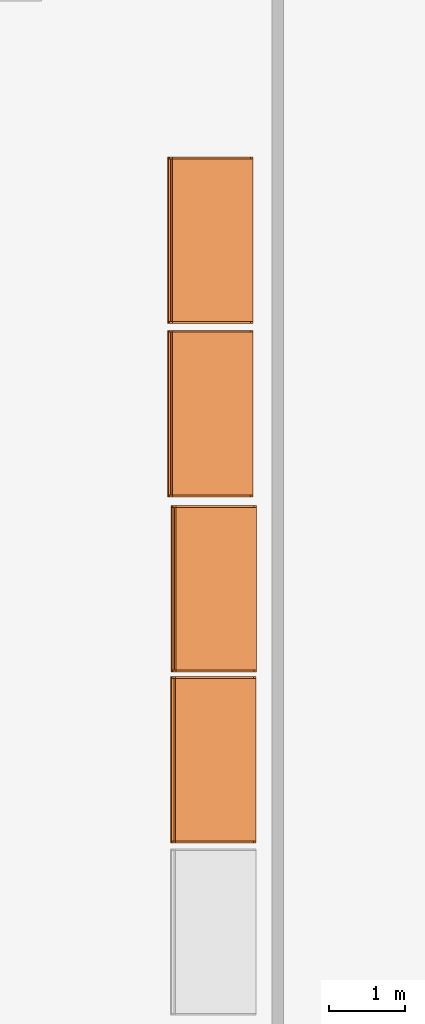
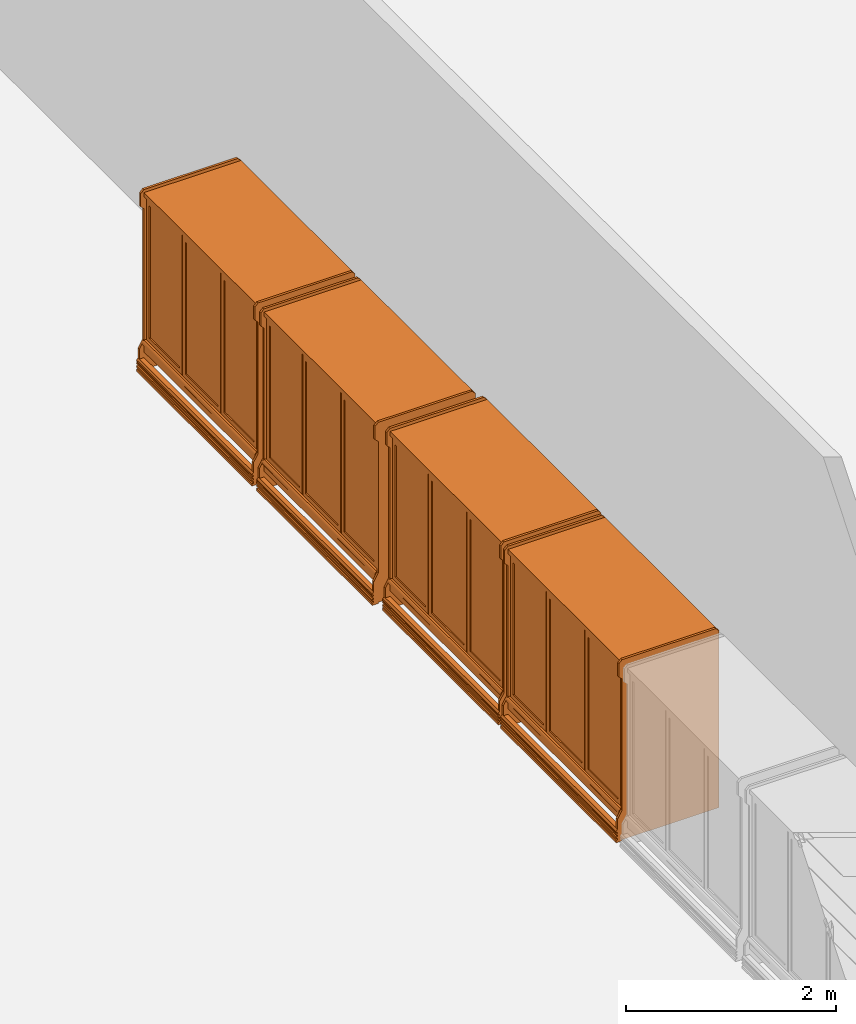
# One storey, part 10 of 11: 4 proxies.
"""IFC2X3 building model written with IfcOpenShell, lengths in metres."""

from ifc_helpers import new_model, entity, si_unit, converted_unit, derived_unit, direction, frame, frame_2d, origin, origin_2d_with_axis, place, context, subcontext, project, spatial, polyline, circle_curve, parameter, trimmed, segment, composite_curve, rectangle, outline, extrude, source, transform, mapped, material, material_list, type_object, type_shapes, element, save


model = new_model("IFC2X3")

# Units and contexts
model_context = context("Model", 3, precision=1e-05, world=origin(), true_north=direction((6.12303176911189e-17, 1.0)))
body_context = subcontext(model_context, "Body", "Model", "MODEL_VIEW")
ifc_project = project(units=[si_unit("LENGTHUNIT", "METRE"), si_unit("AREAUNIT", "SQUARE_METRE"), si_unit("VOLUMEUNIT", "CUBIC_METRE"), converted_unit("PLANEANGLEUNIT", "DEGREE", entity("IfcRatioMeasure", 0.0174532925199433), si_unit("PLANEANGLEUNIT", "RADIAN"), dimensions=[0, 0, 0, 0, 0, 0, 0]), si_unit("MASSUNIT", "GRAM", prefix="KILO"), derived_unit("MASSDENSITYUNIT", [(si_unit("MASSUNIT", "GRAM", prefix="KILO"), 1), (si_unit("LENGTHUNIT", "METRE"), -3)]), si_unit("TIMEUNIT", "SECOND"), si_unit("FREQUENCYUNIT", "HERTZ"), si_unit("THERMODYNAMICTEMPERATUREUNIT", "DEGREE_CELSIUS"), derived_unit("THERMALTRANSMITTANCEUNIT", [(si_unit("MASSUNIT", "GRAM", prefix="KILO"), 1), (si_unit("THERMODYNAMICTEMPERATUREUNIT", "KELVIN"), -1), (si_unit("TIMEUNIT", "SECOND"), -3)]), derived_unit("VOLUMETRICFLOWRATEUNIT", [(si_unit("LENGTHUNIT", "METRE"), 3), (si_unit("TIMEUNIT", "SECOND"), -1)]), si_unit("ELECTRICCURRENTUNIT", "AMPERE"), si_unit("ELECTRICVOLTAGEUNIT", "VOLT"), si_unit("POWERUNIT", "WATT"), si_unit("FORCEUNIT", "NEWTON", prefix="KILO"), si_unit("ILLUMINANCEUNIT", "LUX"), si_unit("LUMINOUSFLUXUNIT", "LUMEN"), si_unit("LUMINOUSINTENSITYUNIT", "CANDELA"), derived_unit("USERDEFINED", [(si_unit("MASSUNIT", "GRAM", prefix="KILO"), -1), (si_unit("LENGTHUNIT", "METRE"), -2), (si_unit("TIMEUNIT", "SECOND"), 3), (si_unit("LUMINOUSFLUXUNIT", "LUMEN"), 1)]), derived_unit("LINEARVELOCITYUNIT", [(si_unit("LENGTHUNIT", "METRE"), 1), (si_unit("TIMEUNIT", "SECOND"), -1)]), si_unit("PRESSUREUNIT", "PASCAL"), derived_unit("USERDEFINED", [(si_unit("LENGTHUNIT", "METRE"), -2), (si_unit("MASSUNIT", "GRAM", prefix="KILO"), 1), (si_unit("TIMEUNIT", "SECOND"), -2)])], contexts=[model_context])

# Site, building, storey
site_placement = place(None, origin())
site = spatial("IfcSite", under=ifc_project, at=site_placement, Name="Default", CompositionType="ELEMENT")
building_placement = place(site_placement, origin())
building = spatial("IfcBuilding", under=site, at=building_placement, CompositionType="ELEMENT")
storey_placement = place(building_placement, frame((0.0, 0.0, 1.49233632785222)))
storey = spatial("IfcBuildingStorey", under=building, at=storey_placement, Name="Niveau 0", CompositionType="ELEMENT", Elevation=1.49233632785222)

# Proxies
ifc_material_1 = material(Name="Métal - Chrome")
ifc_material_2 = material(Name="Verre")
ifc_material_3 = material(Name="Peinture - Blanc")
ifc_material_4 = material(Name="Plastique - Gris foncé")
ifc_material_list_1 = material_list([ifc_material_1, ifc_material_2, ifc_material_3, ifc_material_4])
ifc_material_list_2 = material_list([ifc_material_1, ifc_material_2, ifc_material_3, ifc_material_4])
building_element_proxy_type = type_object("IfcBuildingElementProxyType", Name="2200mm", PredefinedType="NOTDEFINED", material=ifc_material_list_2)
shared_shape = source(origin(), body_context, "Body", "SweptSolid", [
    extrude(outline(polyline([(-0.902820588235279, -0.198746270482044), (-0.902820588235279, -0.211446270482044), (0.824379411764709, -0.211446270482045), (0.824379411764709, -0.198746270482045), (0.608479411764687, -0.198746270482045), (0.608479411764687, -0.0923601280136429), (0.589429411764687, -0.0733101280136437), (0.589429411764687, 0.300798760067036), (0.570379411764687, 0.309681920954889), (0.570379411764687, -0.198746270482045), (0.316379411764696, -0.198746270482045), (0.316379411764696, -0.0876283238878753), (0.297329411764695, -0.0685783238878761), (0.297329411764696, 0.300798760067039), (0.278279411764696, 0.309681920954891), (0.278279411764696, -0.198746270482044), (0.0242794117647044, -0.198746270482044), (0.0242794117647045, -0.0828965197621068), (0.00522941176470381, -0.0638465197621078), (0.00522941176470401, 0.389270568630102), (-0.013820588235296, 0.398153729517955), (-0.0138205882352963, -0.198746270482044), (-0.267820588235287, -0.198746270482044), (-0.267820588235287, -0.0876283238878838), (-0.286870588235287, -0.0685783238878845), (-0.286870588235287, 0.389270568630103), (-0.305920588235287, 0.398153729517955), (-0.305920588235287, -0.198746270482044), (-0.559920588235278, -0.198746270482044), (-0.559920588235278, -0.0828965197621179), (-0.578970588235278, -0.0638465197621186), (-0.578970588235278, 0.385453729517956), (-0.598020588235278, 0.398153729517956), (-0.598020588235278, -0.198746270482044), (-0.902820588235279, -0.198746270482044)])), frame((-1.29363958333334, 0.702953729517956, 1.12917941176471), z_axis=(-1.0, 0.0, 0.0), x_axis=(0.0, 0.0, -1.0)), (0.0, 0.0, -1.0), 0.0126999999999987),
    extrude(rectangle(XDim=0.00634999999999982, YDim=0.574583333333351, at=frame_2d((-2.16840434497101e-18, 1.38777878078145e-16), x_axis=(1.0, 0.0))), frame((-0.942847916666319, 0.0285749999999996, 0.419100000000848), z_axis=(0.0, 0.0, 1.0), x_axis=(0.0, 1.0, 0.0)), (0.0, 0.0, 1.0), 1.53669999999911),
    extrude(outline(polyline([(-0.338091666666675, -0.819149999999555), (0.338091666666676, -0.819149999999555), (0.338091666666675, 0.819149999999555), (-0.338091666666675, 0.819149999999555), (-0.338091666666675, -0.819149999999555)]), holes=[polyline([(-0.287291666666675, -0.768349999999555), (-0.287291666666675, 0.768349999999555), (0.287291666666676, 0.768349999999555), (0.287291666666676, -0.768349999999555), (-0.287291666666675, -0.768349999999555)])]), frame((-0.942847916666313, 0.0126999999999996, 1.1874500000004), z_axis=(0.0, 1.0, 0.0), x_axis=(1.0, 0.0, 0.0)), (0.0, 0.0, 1.0), 0.0253999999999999),
    extrude(rectangle(XDim=0.00634999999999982, YDim=0.619033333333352, at=frame_2d((-2.16840434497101e-18, 0.0), x_axis=(1.0, 0.0))), frame((-1.65395625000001, 0.0285749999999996, 0.419100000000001), z_axis=(0.0, 0.0, 1.0), x_axis=(0.0, 1.0, 0.0)), (0.0, 0.0, 1.0), 1.5367),
    extrude(outline(polyline([(-0.360316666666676, -0.819149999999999), (0.360316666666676, -0.819149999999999), (0.360316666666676, 0.819149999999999), (-0.360316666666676, 0.819149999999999), (-0.360316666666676, -0.819149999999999)]), holes=[polyline([(-0.309516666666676, -0.768349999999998), (-0.309516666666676, 0.768349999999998), (0.309516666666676, 0.768349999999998), (0.309516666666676, -0.768349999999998), (-0.309516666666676, -0.768349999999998)])]), frame((-1.65395625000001, 0.0126999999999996, 1.18745), z_axis=(0.0, 1.0, 0.0), x_axis=(1.0, 0.0, 0.0)), (0.0, 0.0, 1.0), 0.0253999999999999),
    extrude(rectangle(XDim=0.00634999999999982, YDim=0.574583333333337, at=frame_2d((-2.16840434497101e-18, 0.0), x_axis=(1.0, 0.0))), frame((-2.36506458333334, 0.0285749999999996, 0.4191), z_axis=(0.0, 0.0, 1.0), x_axis=(0.0, 1.0, 0.0)), (0.0, 0.0, 1.0), 1.5367),
    extrude(outline(polyline([(-0.81915, -0.338091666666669), (0.81915, -0.338091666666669), (0.81915, 0.338091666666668), (-0.81915, 0.338091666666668), (-0.81915, -0.338091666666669)]), holes=[polyline([(-0.76835, -0.287291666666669), (-0.76835, 0.287291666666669), (0.76835, 0.287291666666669), (0.76835, -0.287291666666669), (-0.76835, -0.287291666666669)])]), frame((-2.36506458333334, 0.0126999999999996, 1.18745), z_axis=(0.0, 1.0, 0.0), x_axis=(0.0, 0.0, -1.0)), (0.0, 0.0, 1.0), 0.0253999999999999),
    extrude(outline(polyline([(-0.88265, -1.0746), (0.88265, -1.0746), (0.88265, 1.0746), (-0.88265, 1.0746), (-0.88265, -1.0746)]), holes=[polyline([(-0.80645, 0.385716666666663), (-0.80645, 1.0365), (0.80645, 1.0365), (0.80645, 0.385716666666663), (-0.80645, 0.385716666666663)]), polyline([(-0.80645, -0.347616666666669), (-0.80645, 0.347616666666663), (0.80645, 0.347616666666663), (0.80645, -0.347616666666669), (-0.80645, -0.347616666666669)]), polyline([(0.80645, -0.385716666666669), (0.80645, -1.0365), (-0.806450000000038, -1.0365), (-0.806450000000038, -0.385716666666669), (0.80645, -0.385716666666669)])]), frame((-1.65395625, 0.0380999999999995, 1.18745), z_axis=(0.0, 1.0, 0.0), x_axis=(0.0, 0.0, -1.0)), (0.0, 0.0, 1.0), 0.0381),
    extrude(outline(composite_curve([segment(trimmed(circle_curve(frame_2d((-0.0095885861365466, 0.0), x_axis=(1.0, 0.0)), 0.0327139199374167), [parameter(287.043889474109)], [parameter(72.9561105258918)], True, "PARAMETER"), True, "CONTINUOUS"), segment(polyline([(0.0, 0.0312771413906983), (0.0, -0.0312771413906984)]), True, "CONTINUOUS")], self_intersect=False)), frame((-2.72855625, 0.0, 0.324322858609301), z_axis=(1.0, 0.0, 0.0), x_axis=(0.0, -1.0, 0.0)), (0.0, 0.0, 1.0), 2.1492),
    extrude(outline(polyline([(-0.058322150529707, -0.045007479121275), (-0.0317412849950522, -0.045007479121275), (-0.0206789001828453, -0.0360006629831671), (-0.0312750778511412, -0.0229861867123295), (-0.0214265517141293, -0.0149676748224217), (-0.0108303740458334, -0.0279821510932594), (0.00394241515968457, -0.0159543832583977), (-0.00665376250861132, -0.00293990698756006), (0.00811902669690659, 0.0090878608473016), (0.0187152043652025, -0.00392661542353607), (0.0334879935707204, 0.00810115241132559), (0.0228918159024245, 0.0211156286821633), (0.0376646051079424, 0.0331433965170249), (0.0482607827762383, 0.0201289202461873), (0.0704563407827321, 0.0382001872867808), (0.0277861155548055, 0.0906087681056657), (-0.0903961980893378, -0.00561337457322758), (-0.058322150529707, -0.045007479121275)])), frame((-2.75395625, -0.052721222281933, 0.0787558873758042), z_axis=(1.0, 0.0, 0.0), x_axis=(0.0, -0.631378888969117, -0.775474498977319)), (0.0, 0.0, 1.0), 2.2),
    extrude(outline(polyline([(-0.78162589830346, -1.01392662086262), (0.249253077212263, -1.01392662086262), (0.285174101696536, -0.978005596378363), (0.285174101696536, -0.825605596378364), (0.249253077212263, -0.789684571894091), (0.249253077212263, 0.736494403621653), (0.300053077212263, 0.824482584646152), (0.300053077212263, 0.939694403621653), (0.249253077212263, 0.939694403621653), (0.249253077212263, 1.07939440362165), (-0.817546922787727, 1.07939440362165), (-0.817546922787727, -0.978005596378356), (-0.78162589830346, -1.01392662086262)])), frame((-0.579356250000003, 0.249253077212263, 1.09209440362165), z_axis=(1.0, 0.0, 0.0), x_axis=(0.0, -1.0, 0.0)), (0.0, 0.0, 1.0), 0.0254000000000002),
    extrude(outline(polyline([(-0.78162589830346, -1.01392662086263), (0.249253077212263, -1.01392662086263), (0.285174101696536, -0.978005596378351), (0.285174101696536, -0.825605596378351), (0.249253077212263, -0.789684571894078), (0.249253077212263, 0.736494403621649), (0.300053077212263, 0.824482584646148), (0.300053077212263, 0.939694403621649), (0.249253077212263, 0.939694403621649), (0.249253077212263, 1.07939440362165), (-0.817546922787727, 1.07939440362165), (-0.817546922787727, -0.97800559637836), (-0.78162589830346, -1.01392662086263)])), frame((-2.75395625, 0.249253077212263, 1.09209440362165), z_axis=(1.0, 0.0, 0.0), x_axis=(0.0, -1.0, 0.0)), (0.0, 0.0, 1.0), 0.0253999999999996),
    extrude(rectangle(XDim=2.1238, YDim=0.6096, at=origin_2d_with_axis()), frame((-1.65395625, 0.596900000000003, 0.558800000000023)), (0.0, 0.0, 1.0), 0.009525),
    extrude(rectangle(XDim=2.1238, YDim=0.6096, at=origin_2d_with_axis()), frame((-1.65395625, 0.596900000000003, 1.72719999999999)), (0.0, 0.0, 1.0), 0.009525),
    extrude(rectangle(XDim=2.1238, YDim=0.6096, at=origin_2d_with_axis()), frame((-1.65395625, 0.596900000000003, 1.4351)), (0.0, 0.0, 1.0), 0.009525),
    extrude(rectangle(XDim=2.1238, YDim=0.6096, at=frame_2d((0.0, -5.55111512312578e-17), x_axis=(1.0, 0.0))), frame((-1.65395625, 0.596900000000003, 1.14300000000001)), (0.0, 0.0, 1.0), 0.009525),
    extrude(rectangle(XDim=2.1238, YDim=0.6096, at=frame_2d((0.0, -5.55111512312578e-17), x_axis=(1.0, 0.0))), frame((-1.65395625, 0.596900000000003, 0.850900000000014)), (0.0, 0.0, 1.0), 0.009525),
    extrude(outline(polyline([(-0.902820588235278, -0.198746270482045), (-0.902820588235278, -0.211446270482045), (0.82437941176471, -0.211446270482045), (0.82437941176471, -0.198746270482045), (0.608479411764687, -0.198746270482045), (0.608479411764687, -0.0923601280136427), (0.589429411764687, -0.0733101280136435), (0.589429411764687, 0.300798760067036), (0.570379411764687, 0.309681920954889), (0.570379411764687, -0.198746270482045), (0.316379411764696, -0.198746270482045), (0.316379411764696, -0.0876283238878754), (0.297329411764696, -0.0685783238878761), (0.297329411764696, 0.300798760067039), (0.278279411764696, 0.309681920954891), (0.278279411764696, -0.198746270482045), (0.0242794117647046, -0.198746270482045), (0.0242794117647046, -0.0828965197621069), (0.00522941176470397, -0.063846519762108), (0.00522941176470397, 0.389270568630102), (-0.013820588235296, 0.398153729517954), (-0.013820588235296, -0.198746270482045), (-0.267820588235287, -0.198746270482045), (-0.267820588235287, -0.0876283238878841), (-0.286870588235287, -0.0685783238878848), (-0.286870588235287, 0.389270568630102), (-0.305920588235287, 0.398153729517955), (-0.305920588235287, -0.198746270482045), (-0.559920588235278, -0.198746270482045), (-0.559920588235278, -0.0828965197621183), (-0.578970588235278, -0.0638465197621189), (-0.578970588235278, 0.385453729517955), (-0.598020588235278, 0.398153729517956), (-0.598020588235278, -0.198746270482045), (-0.902820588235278, -0.198746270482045)])), frame((-2.02683434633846, 0.702953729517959, 1.12917941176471), z_axis=(-1.0, 0.0, 0.0), x_axis=(0.0, 0.0, -1.0)), (0.0, 0.0, -1.0), 0.0124228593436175),
    extrude(outline(polyline([(-0.902820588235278, -0.198746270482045), (-0.902820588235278, -0.211446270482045), (0.82437941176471, -0.211446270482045), (0.82437941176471, -0.198746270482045), (0.608479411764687, -0.198746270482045), (0.608479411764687, -0.0923601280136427), (0.589429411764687, -0.0733101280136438), (0.589429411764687, 0.300798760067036), (0.570379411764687, 0.309681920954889), (0.570379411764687, -0.198746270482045), (0.316379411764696, -0.198746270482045), (0.316379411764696, -0.0876283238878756), (0.297329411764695, -0.068578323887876), (0.297329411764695, 0.300798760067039), (0.278279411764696, 0.309681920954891), (0.278279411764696, -0.198746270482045), (0.0242794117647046, -0.198746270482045), (0.0242794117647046, -0.0828965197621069), (0.00522941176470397, -0.063846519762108), (0.00522941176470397, 0.389270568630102), (-0.013820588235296, 0.398153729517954), (-0.013820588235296, -0.198746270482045), (-0.267820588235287, -0.198746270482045), (-0.267820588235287, -0.0876283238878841), (-0.286870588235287, -0.0685783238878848), (-0.286870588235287, 0.389270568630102), (-0.305920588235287, 0.398153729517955), (-0.305920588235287, -0.198746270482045), (-0.559920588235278, -0.198746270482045), (-0.559920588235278, -0.0828965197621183), (-0.578970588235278, -0.0638465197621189), (-0.578970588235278, 0.385453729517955), (-0.598020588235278, 0.398153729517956), (-0.598020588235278, -0.198746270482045), (-0.902820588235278, -0.198746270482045)])), frame((-0.604756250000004, 0.702953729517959, 1.12917941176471), z_axis=(-1.0, 0.0, 0.0), x_axis=(0.0, 0.0, -1.0)), (0.0, 0.0, -1.0), 0.0127000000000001),
    extrude(outline(polyline([(-0.902820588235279, -0.198746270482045), (-0.902820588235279, -0.211446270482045), (0.824379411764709, -0.211446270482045), (0.824379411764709, -0.198746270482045), (0.608479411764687, -0.198746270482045), (0.608479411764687, -0.0923601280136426), (0.589429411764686, -0.0733101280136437), (0.589429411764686, 0.300798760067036), (0.570379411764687, 0.309681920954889), (0.570379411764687, -0.198746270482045), (0.316379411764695, -0.198746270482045), (0.316379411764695, -0.0876283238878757), (0.297329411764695, -0.0685783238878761), (0.297329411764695, 0.300798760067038), (0.278279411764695, 0.309681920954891), (0.278279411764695, -0.198746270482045), (0.0242794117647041, -0.198746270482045), (0.0242794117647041, -0.082896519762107), (0.00522941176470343, -0.0638465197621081), (0.00522941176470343, 0.389270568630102), (-0.0138205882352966, 0.398153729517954), (-0.0138205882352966, -0.198746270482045), (-0.267820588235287, -0.198746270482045), (-0.267820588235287, -0.0876283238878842), (-0.286870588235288, -0.0685783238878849), (-0.286870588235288, 0.389270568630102), (-0.305920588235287, 0.398153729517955), (-0.305920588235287, -0.198746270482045), (-0.559920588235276, -0.198746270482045), (-0.559920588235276, -0.0828965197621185), (-0.578970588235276, -0.0638465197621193), (-0.578970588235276, 0.385453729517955), (-0.598020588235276, 0.398153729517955), (-0.598020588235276, -0.198746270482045), (-0.902820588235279, -0.198746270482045)])), frame((-2.71585625, 0.702953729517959, 1.12917941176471), z_axis=(-1.0, 0.0, 0.0), x_axis=(0.0, 0.0, -1.0)), (0.0, 0.0, -1.0), 0.0127000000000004),
    extrude(outline(polyline([(-0.99836485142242, -0.344904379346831), (-0.947564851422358, -0.344904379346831), (-0.947564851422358, -0.192504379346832), (-0.960264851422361, -0.192504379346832), (-0.960264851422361, 0.569495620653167), (0.766935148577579, 0.569495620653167), (0.766935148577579, -0.306804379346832), (0.716135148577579, -0.306804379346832), (0.716135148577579, -0.344904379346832), (0.855178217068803, -0.344904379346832), (0.995535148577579, -0.204547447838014), (0.995535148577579, 0.721895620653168), (-0.99836485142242, 0.721895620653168), (-0.99836485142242, -0.344904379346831)])), frame((-2.72855625, 0.344904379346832, 1.07173514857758), z_axis=(1.0, 0.0, 0.0), x_axis=(0.0, 0.0, -1.0)), (0.0, 0.0, 1.0), 2.1492),
    extrude(rectangle(XDim=2.1492, YDim=0.85725, at=frame_2d((2.22044604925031e-16, 0.0), x_axis=(1.0, 0.0))), frame((-1.65395625, 0.619125, 0.0), z_axis=(0.0, 0.0, 1.0), x_axis=(-1.0, 0.0, 0.0)), (0.0, 0.0, 1.0), 0.0762),
])
type_shapes(building_element_proxy_type, [shared_shape])
proxy_1_placement = place(storey_placement, frame((32.8755981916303, -5.95177239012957, 0.0), z_axis=(0.0, 0.0, 1.0), x_axis=(0.0, -1.0, 0.0)))
element("IfcBuildingElementProxy", 1, at=proxy_1_placement, inside=storey, type_object=building_element_proxy_type, material=ifc_material_list_1, Name="Congélateur - Vertical trois portes:2200mm", ObjectType="Congélateur - Vertical trois portes:2200mm", context=body_context, shape_type="MappedRepresentation", body=[
    mapped(shared_shape, transform((0.0, 0.0, 0.0), scale=1.0)),
])
ifc_material_list_3 = material_list([ifc_material_1, ifc_material_2, ifc_material_3, ifc_material_4])
proxy_2_placement = place(storey_placement, frame((32.8755981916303, -8.24027239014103, 0.0), z_axis=(0.0, 0.0, 1.0), x_axis=(0.0, -1.0, 0.0)))
element("IfcBuildingElementProxy", 2, at=proxy_2_placement, inside=storey, type_object=building_element_proxy_type, material=ifc_material_list_3, Name="Congélateur - Vertical trois portes:2200mm", ObjectType="Congélateur - Vertical trois portes:2200mm", context=body_context, shape_type="MappedRepresentation", body=[
    mapped(shared_shape, transform((0.0, 0.0, 0.0), scale=1.0)),
])
ifc_material_list_4 = material_list([ifc_material_1, ifc_material_2, ifc_material_3, ifc_material_4])
proxy_3_placement = place(storey_placement, frame((32.9218645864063, -10.5581573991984, 0.0), z_axis=(0.0, 0.0, 1.0), x_axis=(0.0, -1.0, 0.0)))
element("IfcBuildingElementProxy", 3, at=proxy_3_placement, inside=storey, type_object=building_element_proxy_type, material=ifc_material_list_4, Name="Congélateur - Vertical trois portes:2200mm", ObjectType="Congélateur - Vertical trois portes:2200mm", context=body_context, shape_type="MappedRepresentation", body=[
    mapped(shared_shape, transform((0.0, 0.0, 0.0), scale=1.0)),
])
ifc_material_list_5 = material_list([ifc_material_1, ifc_material_2, ifc_material_3, ifc_material_4])
proxy_4_placement = place(storey_placement, frame((32.9158645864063, -12.8144781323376, 0.0), z_axis=(0.0, 0.0, 1.0), x_axis=(0.0, -1.0, 0.0)))
element("IfcBuildingElementProxy", 4, at=proxy_4_placement, inside=storey, type_object=building_element_proxy_type, material=ifc_material_list_5, Name="Congélateur - Vertical trois portes:2200mm", ObjectType="Congélateur - Vertical trois portes:2200mm", context=body_context, shape_type="MappedRepresentation", body=[
    mapped(shared_shape, transform((0.0, 0.0, 0.0), scale=1.0)),
])

save(model, "model.ifc")
